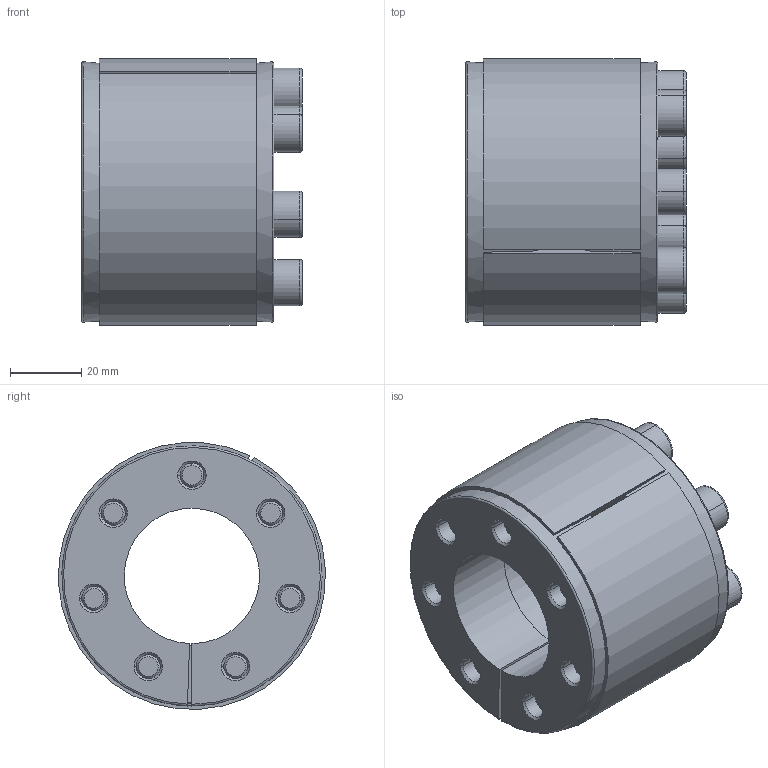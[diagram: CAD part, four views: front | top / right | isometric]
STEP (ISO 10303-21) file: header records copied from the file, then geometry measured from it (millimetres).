
FILE_DESCRIPTION((''),'2;1');
FILE_NAME('398-016-0038','2024-02-19T',('Brieden'),('Brieden'),'PRO/ENGINEER BY PARAMETRIC TECHNOLOGY CORPORATION, 2010160','PRO/ENGINEER BY PARAMETRIC TECHNOLOGY CORPORATION, 2010160','');
FILE_SCHEMA(('AUTOMOTIVE_DESIGN { 1 0 10303 214 1 1 1 1 }'));
Length unit declared in the file: millimetre
Products named in the file (1): 398-016-0038
Bounding box: 62 x 74.89 x 74.85 mm (x, y, z)
Volume: 170818.3 mm3; surface area: 71245.8 mm2
Topology: 2 solids, 9 shells, 238 faces, 572 edges, 368 vertices
Faces by surface type: cylinder 94, plane 84, cone 44, torus 16
Entity records: 8974 total; most frequent: DIRECTION 1338, CARTESIAN_POINT 1181, ORIENTED_EDGE 1116, PRESENTATION_STYLE_ASSIGNMENT 589, STYLED_ITEM 581, CURVE_STYLE 572, EDGE_CURVE 572, AXIS2_PLACEMENT_3D 525
